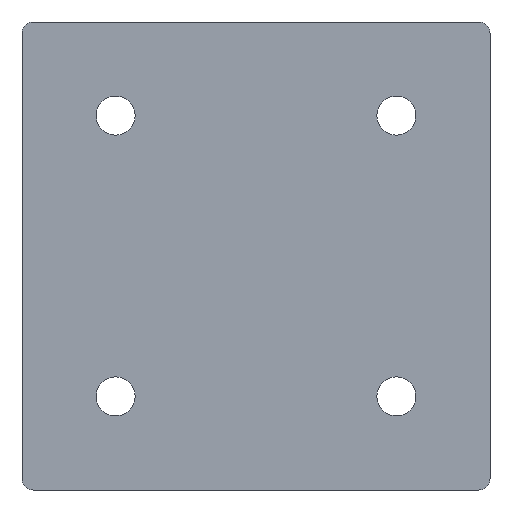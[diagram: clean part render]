
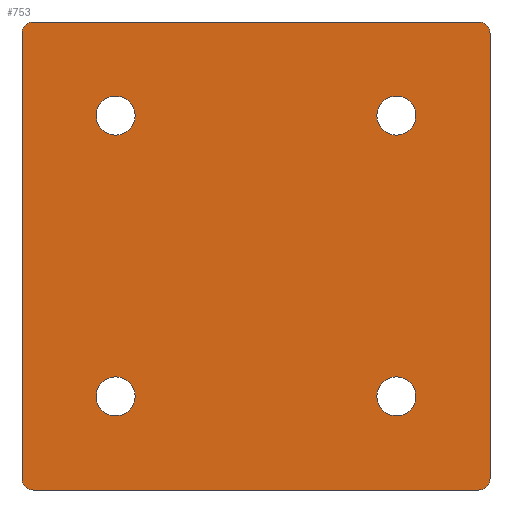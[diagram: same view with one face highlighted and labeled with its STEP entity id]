
A CAD part, front view. The second image highlights one B-rep face of the part: STEP entity #753.
In plain terms, the highlighted planar face has unit normal (0, -1, 0).
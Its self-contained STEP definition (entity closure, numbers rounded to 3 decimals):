
#350=CIRCLE('',#718,1.5);
#351=CIRCLE('',#719,1.5);
#352=CIRCLE('',#720,1.5);
#353=CIRCLE('',#721,1.5);
#354=CIRCLE('',#722,2.5);
#355=CIRCLE('',#723,2.5);
#356=CIRCLE('',#724,2.5);
#357=CIRCLE('',#725,2.5);
#370=ORIENTED_EDGE('',*,*,#490,.T.);
#371=ORIENTED_EDGE('',*,*,#491,.T.);
#372=ORIENTED_EDGE('',*,*,#492,.T.);
#373=ORIENTED_EDGE('',*,*,#493,.T.);
#374=ORIENTED_EDGE('',*,*,#486,.F.);
#375=ORIENTED_EDGE('',*,*,#494,.T.);
#376=ORIENTED_EDGE('',*,*,#495,.F.);
#377=ORIENTED_EDGE('',*,*,#496,.T.);
#378=ORIENTED_EDGE('',*,*,#497,.F.);
#379=ORIENTED_EDGE('',*,*,#498,.F.);
#380=ORIENTED_EDGE('',*,*,#499,.F.);
#381=ORIENTED_EDGE('',*,*,#500,.F.);
#430=VECTOR('',#572,1.);
#434=VECTOR('',#578,1.);
#435=VECTOR('',#581,1.);
#436=VECTOR('',#586,1.);
#446=LINE('',#649,#430);
#450=LINE('',#658,#434);
#451=LINE('',#662,#435);
#452=LINE('',#667,#436);
#462=VERTEX_POINT('',#647);
#463=VERTEX_POINT('',#648);
#466=VERTEX_POINT('',#656);
#467=VERTEX_POINT('',#657);
#468=VERTEX_POINT('',#659);
#469=VERTEX_POINT('',#661);
#470=VERTEX_POINT('',#664);
#471=VERTEX_POINT('',#666);
#472=VERTEX_POINT('',#669);
#473=VERTEX_POINT('',#671);
#474=VERTEX_POINT('',#673);
#475=VERTEX_POINT('',#675);
#486=EDGE_CURVE('',#462,#463,#446,.T.);
#490=EDGE_CURVE('',#466,#467,#450,.T.);
#491=EDGE_CURVE('',#467,#468,#350,.T.);
#492=EDGE_CURVE('',#468,#469,#451,.T.);
#493=EDGE_CURVE('',#469,#463,#351,.T.);
#494=EDGE_CURVE('',#462,#470,#352,.T.);
#495=EDGE_CURVE('',#471,#470,#452,.T.);
#496=EDGE_CURVE('',#471,#466,#353,.T.);
#497=EDGE_CURVE('',#472,#472,#354,.T.);
#498=EDGE_CURVE('',#473,#473,#355,.T.);
#499=EDGE_CURVE('',#474,#474,#356,.T.);
#500=EDGE_CURVE('',#475,#475,#357,.T.);
#519=EDGE_LOOP('',(#370,#371,#372,#373,#374,#375,#376,#377));
#520=EDGE_LOOP('',(#378));
#521=EDGE_LOOP('',(#379));
#522=EDGE_LOOP('',(#380));
#523=EDGE_LOOP('',(#381));
#545=FACE_BOUND('',#519,.T.);
#546=FACE_BOUND('',#520,.T.);
#547=FACE_BOUND('',#521,.T.);
#548=FACE_BOUND('',#522,.T.);
#549=FACE_BOUND('',#523,.T.);
#572=DIRECTION('',(57.,0.,0.));
#576=DIRECTION('',(0.,-1.,0.));
#577=DIRECTION('',(-1.,0.,0.));
#578=DIRECTION('',(57.,0.,0.));
#579=DIRECTION('',(0.,-1.,0.));
#580=DIRECTION('',(0.,0.,-1.5));
#581=DIRECTION('',(0.,0.,57.));
#582=DIRECTION('',(0.,-1.,0.));
#583=DIRECTION('',(0.,0.,-1.5));
#584=DIRECTION('',(0.,-1.,0.));
#585=DIRECTION('',(0.,0.,-1.5));
#586=DIRECTION('',(0.,0.,57.));
#587=DIRECTION('',(0.,-1.,0.));
#588=DIRECTION('',(0.,0.,-1.5));
#589=DIRECTION('',(0.,-1.,0.));
#590=DIRECTION('',(0.,0.,-2.5));
#591=DIRECTION('',(0.,-1.,0.));
#592=DIRECTION('',(0.,0.,-2.5));
#593=DIRECTION('',(0.,-1.,0.));
#594=DIRECTION('',(0.,0.,-2.5));
#595=DIRECTION('',(0.,-1.,0.));
#596=DIRECTION('',(0.,0.,-2.5));
#647=CARTESIAN_POINT('',(1.5,0.,60.));
#648=CARTESIAN_POINT('',(58.5,0.,60.));
#649=CARTESIAN_POINT('',(1.5,0.,60.));
#655=CARTESIAN_POINT('',(0.,0.,0.));
#656=CARTESIAN_POINT('',(1.5,0.,0.));
#657=CARTESIAN_POINT('',(58.5,0.,0.));
#658=CARTESIAN_POINT('',(1.5,0.,0.));
#659=CARTESIAN_POINT('',(60.,0.,1.5));
#660=CARTESIAN_POINT('',(58.5,0.,1.5));
#661=CARTESIAN_POINT('',(60.,0.,58.5));
#662=CARTESIAN_POINT('',(60.,0.,1.5));
#663=CARTESIAN_POINT('',(58.5,0.,58.5));
#664=CARTESIAN_POINT('',(0.,0.,58.5));
#665=CARTESIAN_POINT('',(1.5,0.,58.5));
#666=CARTESIAN_POINT('',(0.,0.,1.5));
#667=CARTESIAN_POINT('',(0.,0.,1.5));
#668=CARTESIAN_POINT('',(1.5,0.,1.5));
#669=CARTESIAN_POINT('',(12.,0.,9.5));
#670=CARTESIAN_POINT('',(12.,0.,12.));
#671=CARTESIAN_POINT('',(48.,0.,9.5));
#672=CARTESIAN_POINT('',(48.,0.,12.));
#673=CARTESIAN_POINT('',(12.,0.,45.5));
#674=CARTESIAN_POINT('',(12.,0.,48.));
#675=CARTESIAN_POINT('',(48.,0.,45.5));
#676=CARTESIAN_POINT('',(48.,0.,48.));
#717=AXIS2_PLACEMENT_3D('',#655,#576,#577);
#718=AXIS2_PLACEMENT_3D('',#660,#579,#580);
#719=AXIS2_PLACEMENT_3D('',#663,#582,#583);
#720=AXIS2_PLACEMENT_3D('',#665,#584,#585);
#721=AXIS2_PLACEMENT_3D('',#668,#587,#588);
#722=AXIS2_PLACEMENT_3D('',#670,#589,#590);
#723=AXIS2_PLACEMENT_3D('',#672,#591,#592);
#724=AXIS2_PLACEMENT_3D('',#674,#593,#594);
#725=AXIS2_PLACEMENT_3D('',#676,#595,#596);
#747=PLANE('',#717);
#753=ADVANCED_FACE('',(#545,#546,#547,#548,#549),#747,.T.);
